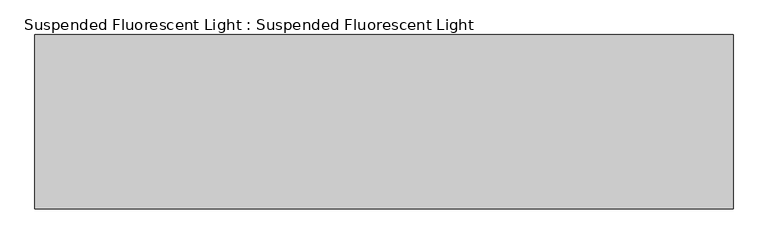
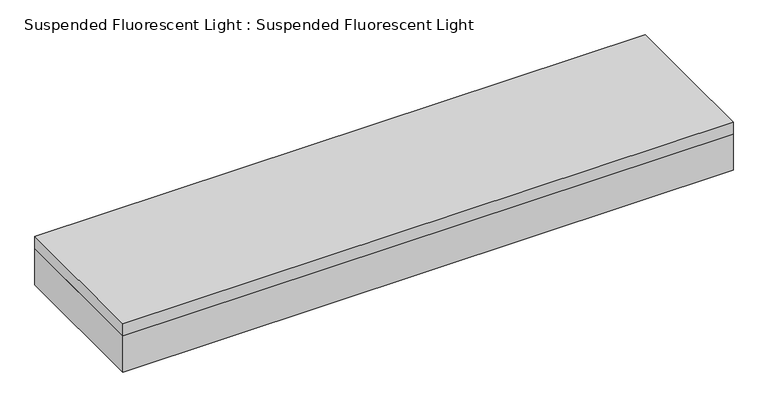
"""IFC4 building model written with IfcOpenShell, lengths in millimetres: light fixture geometry, Suspended Fluorescent Light : Suspended Fluorescent Light."""

from ifc_helpers import new_model, si_unit, frame, origin, place, context, project, spatial, polyline, outline, extrude, source, transform, mapped, element, save


def suspended_fluorescent_light_suspended_fluorescent_light_82c183d2(model_context):
    return source(origin(), model_context, "Body", "SweptSolid", [
        extrude(outline(polyline([(-609.6, 152.4), (609.6, 152.4), (609.6, 0.0), (609.6, -152.4), (-609.6, -152.4), (-609.6, 152.4)])), frame((0.0, 0.0, 2057.4), z_axis=(0.0, 0.0, 1.0), x_axis=(1.0, 0.0, 0.0)), (0.0, 0.0, 1.0), 25.4),
        extrude(outline(polyline([(-609.6, 152.4), (609.6, 152.4), (609.6, 0.0), (609.6, -152.4), (-609.6, -152.4), (-609.6, 152.4)])), frame((0.0, 0.0, 1981.2), z_axis=(0.0, 0.0, 1.0), x_axis=(1.0, 0.0, 0.0)), (0.0, 0.0, 1.0), 76.2),
    ])


if __name__ == "__main__":
    model = new_model("IFC4")
    model_context = context("Model", 3, world=origin())
    ifc_project = project(units=[si_unit("LENGTHUNIT", "METRE", prefix="MILLI")], contexts=[model_context])
    site = spatial("IfcSite", under=ifc_project)
    building = spatial("IfcBuilding", under=site)
    placement = place(None, origin())
    suspended_fluorescent_light_suspended_fluorescent_light_shape = suspended_fluorescent_light_suspended_fluorescent_light_82c183d2(model_context)
    element("IfcLightFixture", 1, ObjectType="Suspended Fluorescent Light : Suspended Fluorescent Light", at=placement, inside=building, context=model_context, shape_type="MappedRepresentation", body=[
        mapped(suspended_fluorescent_light_suspended_fluorescent_light_shape, transform((0.0, 0.0, 0.0), x_axis=(1.0, 0.0, 0.0), y_axis=(0.0, 1.0, 0.0), z_axis=(0.0, 0.0, 1.0))),
    ])
    save(model, "model.ifc")
